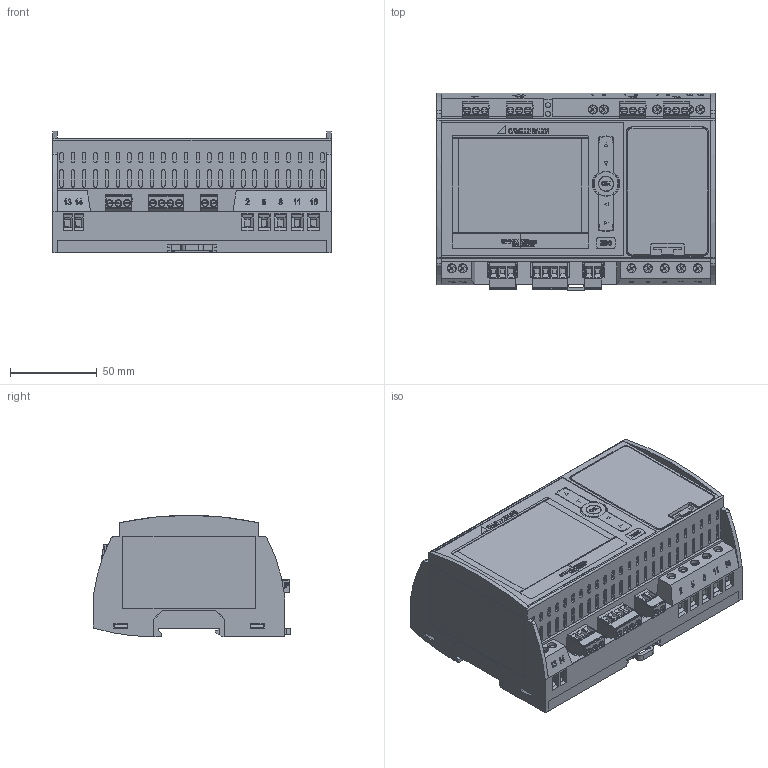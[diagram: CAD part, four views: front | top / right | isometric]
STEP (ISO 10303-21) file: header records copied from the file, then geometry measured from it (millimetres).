
FILE_DESCRIPTION (( 'STEP AP214' ), '1' );
FILE_NAME ('DM5000 .STEP', '2017-01-27T09:11:51', ( 'inst' ), ( '' ), 'SwSTEP 2.0', 'SolidWorks 2016', '' );
FILE_SCHEMA (( 'AUTOMOTIVE_DESIGN' ));
Length unit declared in the file: millimetre
Products named in the file (1): DM5000 
Bounding box: 160 x 113.4 x 69.81 mm (x, y, z)
Surface area: 212250.1 mm2 (no closed solid volume)
Topology: 0 solids, 69 shells, 7332 faces, 19358 edges, 12612 vertices
Faces by surface type: plane 5616, cylinder 1074, bspline 507, cone 118, torus 12, sphere 5
Full cylindrical faces by diameter (mm): 0.406 x1, 0.457 x6, 0.813 x12, 0.889 x2, 0.965 x2, 1.219 x2, 1.397 x2, 1.5 x21, 2 x2, 2.6 x15, 2.92 x1, 3 x1, 3.7 x21, 3.85 x21, 4 x21, 4.7 x15, 5 x15, 5.2 x15, 8.3 x1, 13.8 x1, 14.2 x1
Entity records: 324956 total; most frequent: CARTESIAN_POINT 67556, ORIENTED_EDGE 37846, DIRECTION 32829, EDGE_CURVE 18938, LINE 15191, VECTOR 15191, VERTEX_POINT 12473, AXIS2_PLACEMENT_3D 8819
